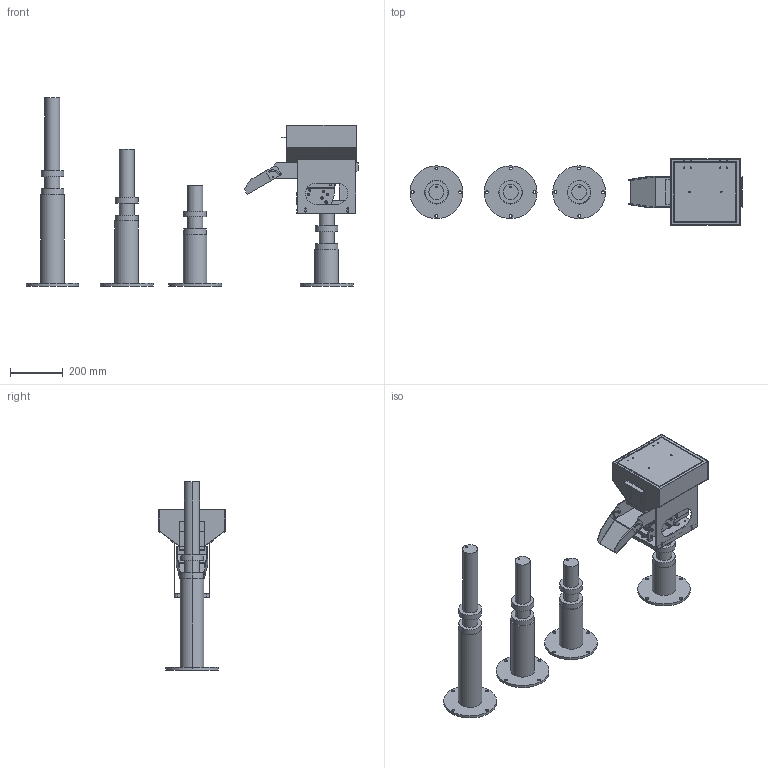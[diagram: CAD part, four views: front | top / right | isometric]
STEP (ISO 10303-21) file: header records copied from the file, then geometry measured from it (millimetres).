
FILE_DESCRIPTION (( 'STEP AP203' ), '1' );
FILE_NAME ('250 蹋累 盓翐恁倰.STEP', '2025-07-11T08:27:22', ( '' ), ( '' ), 'SwSTEP 2.0', 'SolidWorks 2022', '' );
FILE_SCHEMA (( 'CONFIG_CONTROL_DESIGN' ));
Length unit declared in the file: millimetre
Products named in the file (1): 250   蹋累  盓翐恁倰
Bounding box: 1256.71 x 250 x 712.58 mm (x, y, z)
Volume: 8745803.6 mm3; surface area: 2379796.1 mm2
Topology: 144 solids, 144 shells, 1871 faces, 4415 edges, 2902 vertices
Faces by surface type: plane 1053, cylinder 682, torus 128, cone 8
Entity records: 54612 total; most frequent: DIRECTION 9787, CARTESIAN_POINT 9193, ORIENTED_EDGE 8814, EDGE_CURVE 4407, AXIS2_PLACEMENT_3D 3512, VERTEX_POINT 2902, LINE 2763, VECTOR 2763
